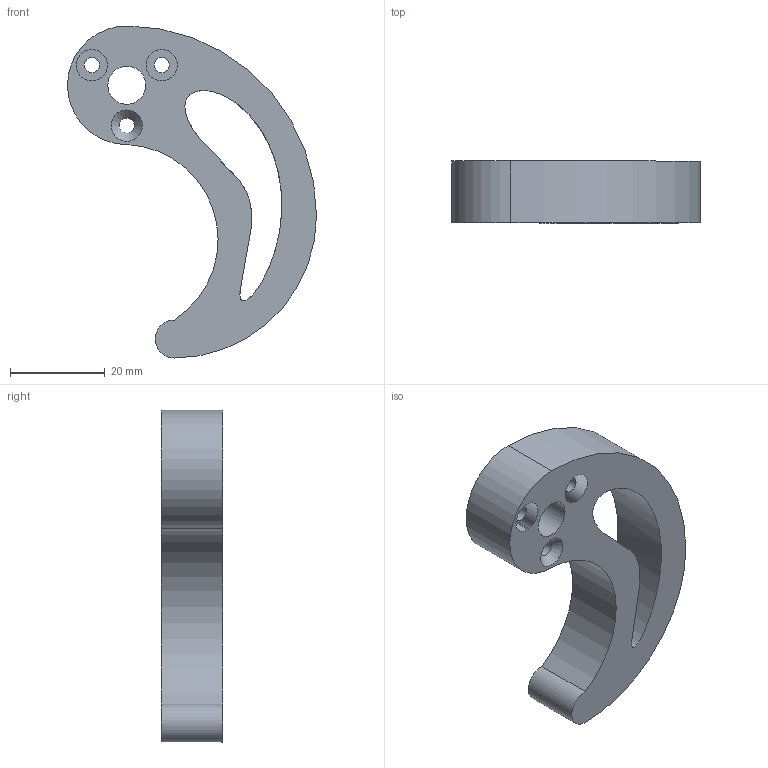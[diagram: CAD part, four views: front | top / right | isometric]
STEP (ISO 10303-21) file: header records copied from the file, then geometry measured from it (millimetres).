
FILE_DESCRIPTION(/* description */ (''),/* implementation_level */ '2;1');
FILE_NAME(/* name */ 'D:/кек/АНЦП.014_спека_чертежи_step/Lapka.step',/* time_stamp */ '2021-11-09T09:58:07+03:00',/* author */ (''),/* organization */ (''),/* preprocessor_version */ 'ST-DEVELOPER v18.1',/* originating_system */ 'Autodesk Translation Framework v10.10.0.1391',/* authorisation */ '');
FILE_SCHEMA (('AUTOMOTIVE_DESIGN { 1 0 10303 214 3 1 1 }'));
Length unit declared in the file: millimetre
Products named in the file (1): Lapka
Bounding box: 52.5 x 13 x 70 mm (x, y, z)
Volume: 18563.4 mm3; surface area: 7717.5 mm2
Topology: 1 solids, 1 shells, 15 faces, 36 edges, 23 vertices
Faces by surface type: cylinder 9, cone 3, plane 2, bspline 1
Full cylindrical faces by diameter (mm): 3.2 x3, 8 x1
Entity records: 990 total; most frequent: CARTESIAN_POINT 574, DIRECTION 85, ORIENTED_EDGE 72, EDGE_CURVE 36, AXIS2_PLACEMENT_3D 36, EDGE_LOOP 25, VERTEX_POINT 23, CIRCLE 21
